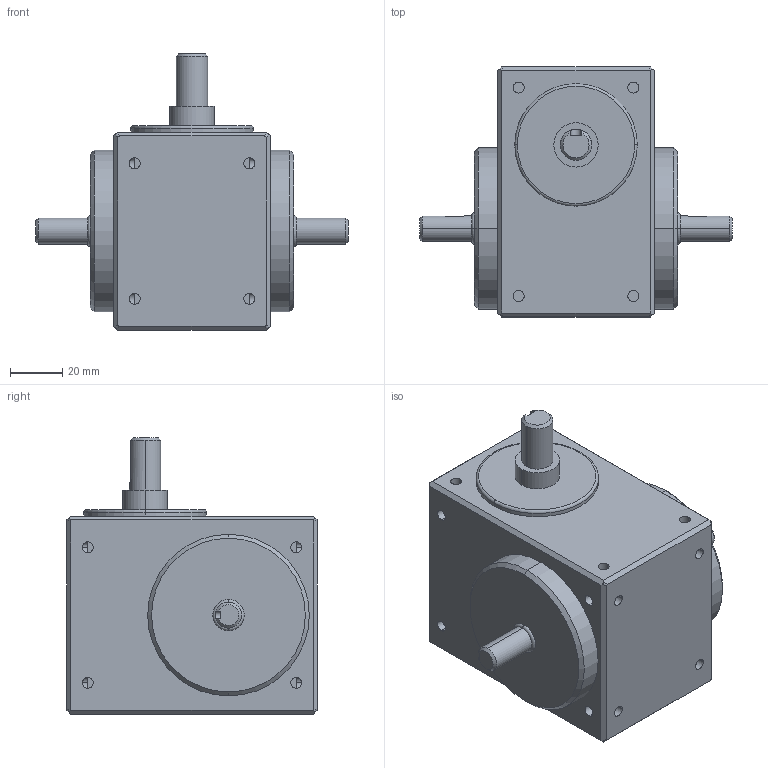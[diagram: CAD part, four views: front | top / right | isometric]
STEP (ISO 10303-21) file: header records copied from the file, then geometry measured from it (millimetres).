
FILE_DESCRIPTION((''),'2;1');
FILE_NAME('32DS','2014-12-12T',('松仔'),(''),'PRO/ENGINEER BY PARAMETRIC TECHNOLOGY CORPORATION, 2013430','PRO/ENGINEER BY PARAMETRIC TECHNOLOGY CORPORATION, 2013430','');
FILE_SCHEMA(('CONFIG_CONTROL_DESIGN'));
Length unit declared in the file: millimetre
Products named in the file (1): 32DS
Bounding box: 120 x 96 x 106 mm (x, y, z)
Volume: 498240.9 mm3; surface area: 42846.1 mm2
Topology: 1 solids, 1 shells, 147 faces, 345 edges, 216 vertices
Faces by surface type: cylinder 75, plane 59, cone 7, torus 6
Entity records: 4461 total; most frequent: CARTESIAN_POINT 973, DIRECTION 743, ORIENTED_EDGE 690, EDGE_CURVE 345, AXIS2_PLACEMENT_3D 292, VERTEX_POINT 216, EDGE_LOOP 179, VECTOR 159
